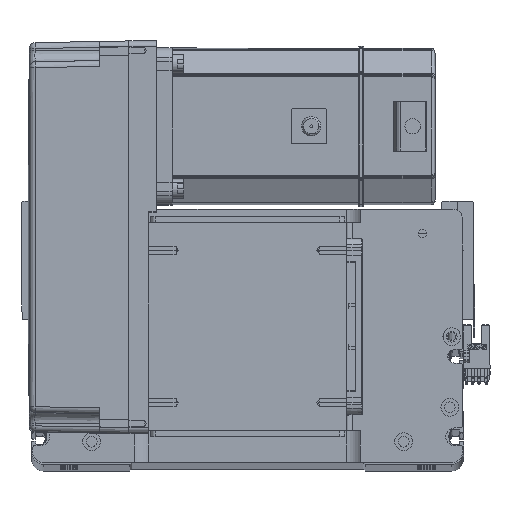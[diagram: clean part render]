
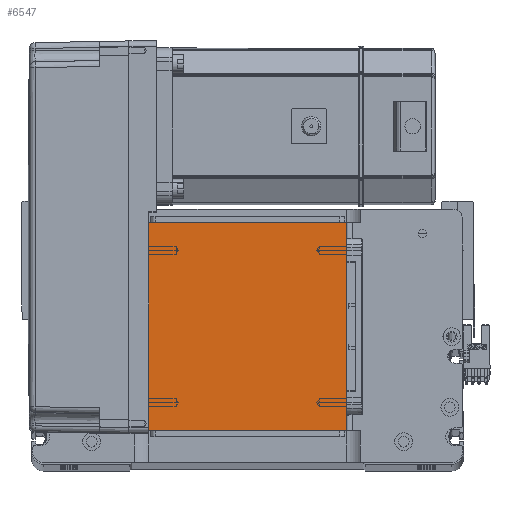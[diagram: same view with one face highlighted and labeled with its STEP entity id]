
A CAD part, top view. The second image highlights one B-rep face of the part: STEP entity #6547.
In plain terms, the highlighted planar face has unit normal (0, 0, 1).
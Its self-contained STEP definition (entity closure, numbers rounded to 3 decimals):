
#1748 = VECTOR ( 'NONE', #2625, 1000. ) ;
#2625 = DIRECTION ( 'NONE',  ( 0., 1., 0. ) ) ;
#2714 = CARTESIAN_POINT ( 'NONE',  ( -50.5, 16., 115. ) ) ;
#2959 = VECTOR ( 'NONE', #22177, 1000. ) ;
#3091 = LINE ( 'NONE', #28309, #1748 ) ;
#3422 = PLANE ( 'NONE',  #34190 ) ;
#4587 = VECTOR ( 'NONE', #11468, 1000. ) ;
#4769 = EDGE_CURVE ( 'NONE', #55261, #45543, #37205, .T. ) ;
#5617 = VECTOR ( 'NONE', #14612, 1000. ) ;
#6314 = CARTESIAN_POINT ( 'NONE',  ( -50.5, 122., 115. ) ) ;
#6547 = ADVANCED_FACE ( 'NONE', ( #33674 ), #3422, .T. ) ;
#6995 = DIRECTION ( 'NONE',  ( 0., 0., 1. ) ) ;
#7399 = VERTEX_POINT ( 'NONE', #44530 ) ;
#11400 = VERTEX_POINT ( 'NONE', #33859 ) ;
#11468 = DIRECTION ( 'NONE',  ( 0., -1., 0. ) ) ;
#13698 = ORIENTED_EDGE ( 'NONE', *, *, #17776, .T. ) ;
#13769 = CARTESIAN_POINT ( 'NONE',  ( -50.5, 16., 115. ) ) ;
#14612 = DIRECTION ( 'NONE',  ( -1., 0., 0. ) ) ;
#15781 = CARTESIAN_POINT ( 'NONE',  ( -50.5, 122., 115. ) ) ;
#17776 = EDGE_CURVE ( 'NONE', #11400, #55261, #27397, .T. ) ;
#20778 = EDGE_CURVE ( 'NONE', #7399, #11400, #27073, .T. ) ;
#22177 = DIRECTION ( 'NONE',  ( 1., 0., 0. ) ) ;
#23973 = CARTESIAN_POINT ( 'NONE',  ( 50.5, 16., 115. ) ) ;
#24589 = CARTESIAN_POINT ( 'NONE',  ( 0., 0., 115. ) ) ;
#27073 = LINE ( 'NONE', #6314, #5617 ) ;
#27397 = LINE ( 'NONE', #15781, #4587 ) ;
#27621 = ORIENTED_EDGE ( 'NONE', *, *, #4769, .T. ) ;
#28309 = CARTESIAN_POINT ( 'NONE',  ( 50.5, 122., 115. ) ) ;
#32888 = DIRECTION ( 'NONE',  ( 1., 0., 0. ) ) ;
#33454 = ORIENTED_EDGE ( 'NONE', *, *, #45621, .T. ) ;
#33674 = FACE_OUTER_BOUND ( 'NONE', #34745, .T. ) ;
#33859 = CARTESIAN_POINT ( 'NONE',  ( -50.5, 122., 115. ) ) ;
#34190 = AXIS2_PLACEMENT_3D ( 'NONE', #24589, #6995, #32888 ) ;
#34745 = EDGE_LOOP ( 'NONE', ( #13698, #27621, #33454, #36562 ) ) ;
#36562 = ORIENTED_EDGE ( 'NONE', *, *, #20778, .T. ) ;
#37205 = LINE ( 'NONE', #13769, #2959 ) ;
#44530 = CARTESIAN_POINT ( 'NONE',  ( 50.5, 122., 115. ) ) ;
#45543 = VERTEX_POINT ( 'NONE', #23973 ) ;
#45621 = EDGE_CURVE ( 'NONE', #45543, #7399, #3091, .T. ) ;
#55261 = VERTEX_POINT ( 'NONE', #2714 ) ;
